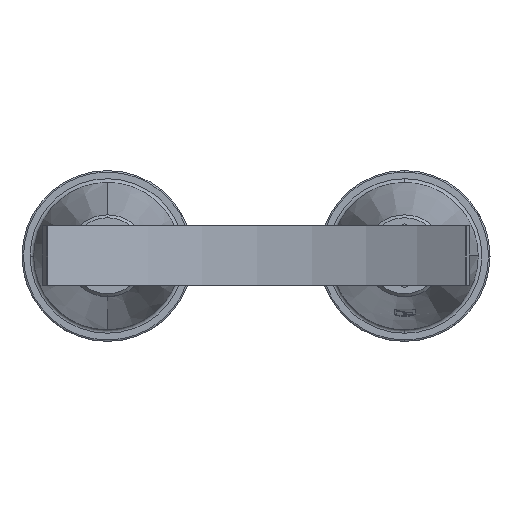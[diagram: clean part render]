
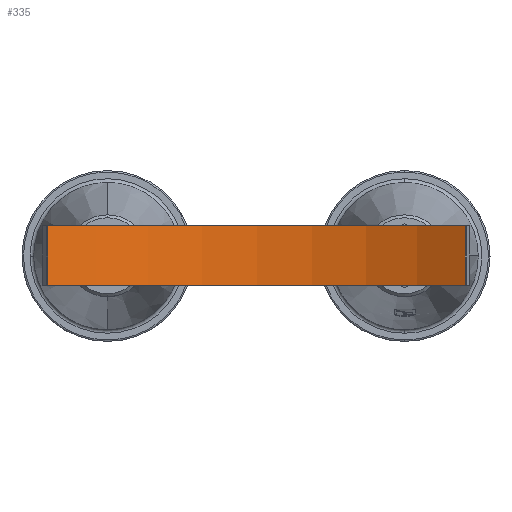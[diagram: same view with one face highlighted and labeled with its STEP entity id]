
A CAD part, top view. The second image highlights one B-rep face of the part: STEP entity #335.
In plain terms, the highlighted cylindrical face has radius 504 mm (diameter 1008 mm), a partial arc.
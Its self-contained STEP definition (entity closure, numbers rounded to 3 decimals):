
#335=ADVANCED_FACE('',(#829),#830,.F.);
#829=FACE_OUTER_BOUND('',#1564,.T.);
#830=CYLINDRICAL_SURFACE('',#1565,504.);
#1564=EDGE_LOOP('',(#2254,#2255,#2256,#2257));
#1565=AXIS2_PLACEMENT_3D('',#2258,#2259,#2260);
#2254=ORIENTED_EDGE('',*,*,#4121,.T.);
#2255=ORIENTED_EDGE('',*,*,#4111,.F.);
#2256=ORIENTED_EDGE('',*,*,#4122,.T.);
#2257=ORIENTED_EDGE('',*,*,#4118,.T.);
#2258=CARTESIAN_POINT('',(478.594,670.172,617.021));
#2259=DIRECTION('',(0.,-1.0,0.));
#2260=DIRECTION('',(1.0,0.,0.));
#4111=EDGE_CURVE('',#4843,#4838,#4845,.T.);
#4118=EDGE_CURVE('',#4855,#4853,#4856,.T.);
#4121=EDGE_CURVE('',#4853,#4838,#4859,.T.);
#4122=EDGE_CURVE('',#4843,#4855,#4860,.T.);
#4838=VERTEX_POINT('',#5894);
#4843=VERTEX_POINT('',#5901);
#4845=LINE('',#5904,#5905);
#4853=VERTEX_POINT('',#5914);
#4855=VERTEX_POINT('',#5917);
#4856=LINE('',#5918,#5919);
#4859=CIRCLE('',#5923,504.);
#4860=CIRCLE('',#5924,504.);
#5894=CARTESIAN_POINT('',(760.235,590.172,199.056));
#5901=CARTESIAN_POINT('',(760.235,670.172,199.056));
#5904=CARTESIAN_POINT('',(760.235,670.172,199.056));
#5905=VECTOR('',#9138,1.);
#5914=CARTESIAN_POINT('',(198.454,590.172,198.049));
#5917=CARTESIAN_POINT('',(198.454,670.172,198.049));
#5918=CARTESIAN_POINT('',(198.454,670.172,198.049));
#5919=VECTOR('',#9147,1.);
#5923=AXIS2_PLACEMENT_3D('',#9149,#9150,#9151);
#5924=AXIS2_PLACEMENT_3D('',#9152,#9153,#9154);
#9138=DIRECTION('',(0.,-1.0,0.));
#9147=DIRECTION('',(0.,-1.0,0.));
#9149=CARTESIAN_POINT('',(478.594,590.172,617.021));
#9150=DIRECTION('',(0.,-1.0,0.));
#9151=DIRECTION('',(1.0,0.,0.));
#9152=CARTESIAN_POINT('',(478.594,670.172,617.021));
#9153=DIRECTION('',(0.,1.0,0.));
#9154=DIRECTION('',(1.0,0.,0.));
